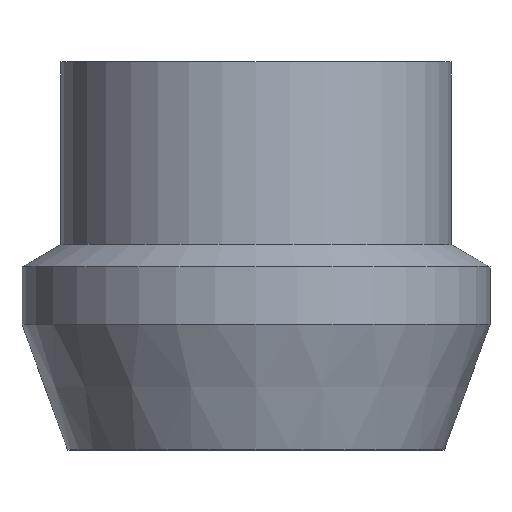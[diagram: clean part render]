
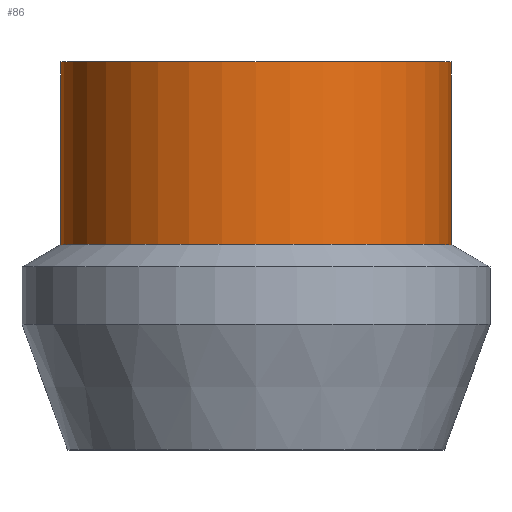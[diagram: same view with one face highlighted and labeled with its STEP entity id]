
A CAD part, top view. The second image highlights one B-rep face of the part: STEP entity #86.
In plain terms, the highlighted cylindrical face has radius 8.55 mm (diameter 17.1 mm), a full revolution.
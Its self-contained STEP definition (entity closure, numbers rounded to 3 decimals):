
#20=FACE_BOUND('',#36,.T.);
#27=FACE_OUTER_BOUND('',#35,.T.);
#35=EDGE_LOOP('',(#70));
#36=EDGE_LOOP('',(#71));
#49=CIRCLE('',#98,8.55);
#50=CIRCLE('',#99,8.55);
#56=VERTEX_POINT('',#145);
#57=VERTEX_POINT('',#147);
#63=EDGE_CURVE('',#56,#56,#49,.T.);
#64=EDGE_CURVE('',#57,#57,#50,.T.);
#70=ORIENTED_EDGE('',*,*,#63,.F.);
#71=ORIENTED_EDGE('',*,*,#64,.T.);
#83=CYLINDRICAL_SURFACE('',#97,8.55);
#86=ADVANCED_FACE('',(#27,#20),#83,.T.);
#97=AXIS2_PLACEMENT_3D('',#144,#116,#117);
#98=AXIS2_PLACEMENT_3D('',#146,#118,#119);
#99=AXIS2_PLACEMENT_3D('',#148,#120,#121);
#116=DIRECTION('center_axis',(0.,-1.,0.));
#117=DIRECTION('ref_axis',(1.,0.,0.));
#118=DIRECTION('center_axis',(0.,-1.,0.));
#119=DIRECTION('ref_axis',(1.,0.,0.));
#120=DIRECTION('center_axis',(0.,-1.,0.));
#121=DIRECTION('ref_axis',(1.,0.,0.));
#144=CARTESIAN_POINT('Origin',(0.,13.,0.));
#145=CARTESIAN_POINT('',(8.55,9.,0.));
#146=CARTESIAN_POINT('Origin',(0.,9.,0.));
#147=CARTESIAN_POINT('',(8.55,17.,0.));
#148=CARTESIAN_POINT('Origin',(0.,17.,0.));
